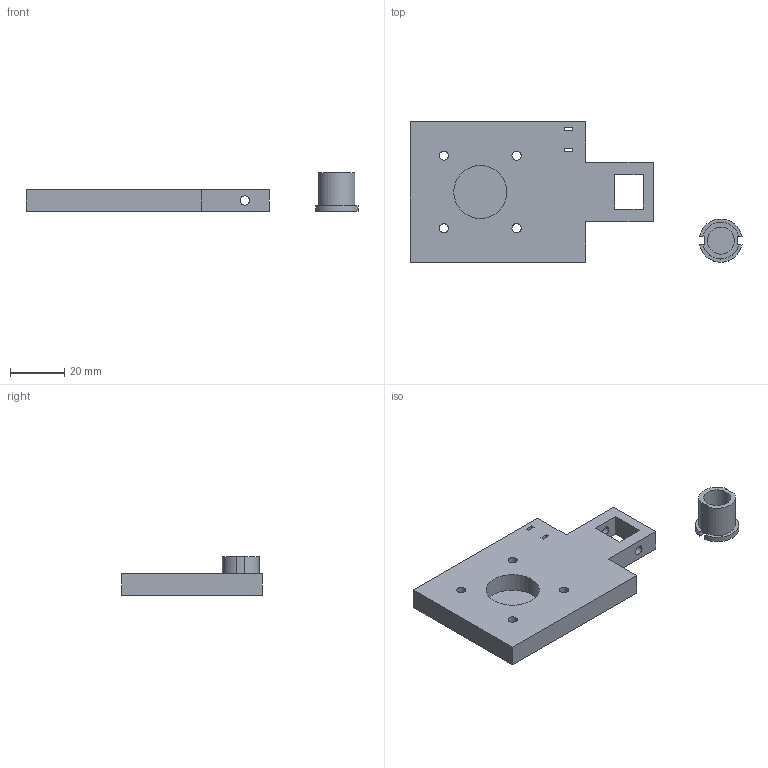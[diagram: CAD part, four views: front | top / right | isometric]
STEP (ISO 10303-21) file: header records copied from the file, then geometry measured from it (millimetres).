
FILE_DESCRIPTION(('Open CASCADE Model'),'2;1');
FILE_NAME('Open CASCADE Shape Model','2026-11-12T16:33:15',('Author'),( 'Open CASCADE'),'Open CASCADE STEP processor 7.9','Open CASCADE 7.9' ,'Unknown');
FILE_SCHEMA(('AUTOMOTIVE_DESIGN { 1 0 10303 214 1 1 1 1 }'));
Length unit declared in the file: millimetre
Products named in the file (3): Open CASCADE STEP translator 7.9 6; Open CASCADE STEP translator 7.9 6.1; Open CASCADE STEP translator 7.9 6.2
Assembly tree (2 placements, depth 2):
  Open CASCADE STEP translator 7.9 6
    Open CASCADE STEP translator 7.9 6.1
    Open CASCADE STEP translator 7.9 6.2
Bounding box: 122.86 x 52 x 14.3 mm (x, y, z)
Volume: 28949.8 mm3; surface area: 12567 mm2
Topology: 2 solids, 2 shells, 46 faces, 120 edges, 80 vertices
Faces by surface type: plane 34, cylinder 12
Full cylindrical faces by diameter (mm): 3.4 x6, 10 x1, 19.6 x1
Entity records: 3066 total; most frequent: CARTESIAN_POINT 525, DIRECTION 476, LINE 312, VECTOR 312, ORIENTED_EDGE 240, PCURVE 240, DEFINITIONAL_REPRESENTATION 240, EDGE_CURVE 120
